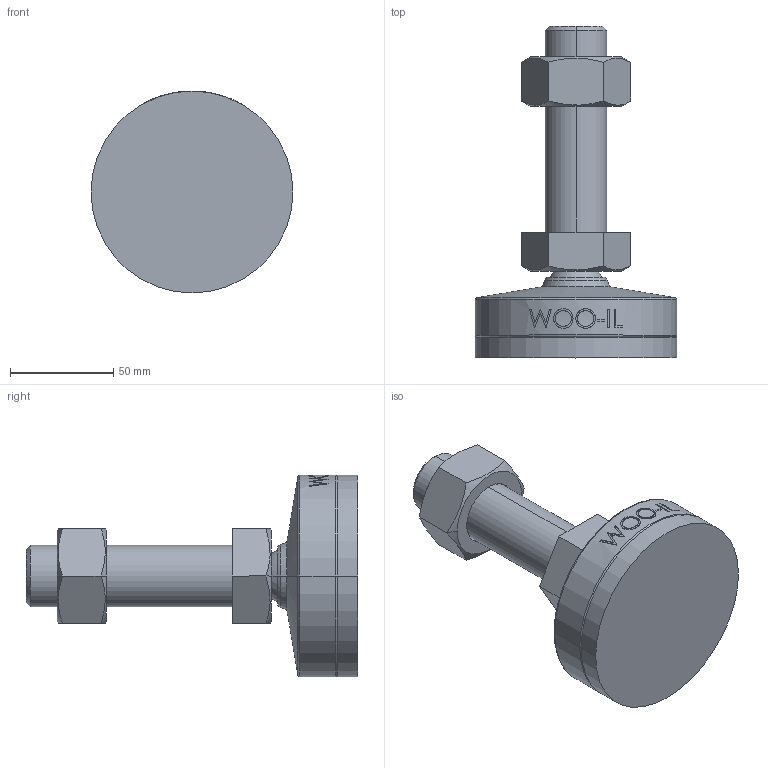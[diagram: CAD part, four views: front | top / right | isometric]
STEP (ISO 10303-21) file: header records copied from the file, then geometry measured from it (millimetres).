
FILE_DESCRIPTION (( 'STEP AP214' ), '1' );
FILE_NAME ('MFNR98-M30-100.step', '2021-02-22T09:09:46', ( '' ), ( '' ), 'SwSTEP 2.0', 'SolidWorks 2019', '' );
FILE_SCHEMA (( 'AUTOMOTIVE_DESIGN' ));
Length unit declared in the file: millimetre
Products named in the file (2): MFNR98-M30-100
Bounding box: 98 x 161 x 98 mm (x, y, z)
Volume: 374905.1 mm3; surface area: 48046.2 mm2
Topology: 2 solids, 2 shells, 103 faces, 239 edges, 152 vertices
Faces by surface type: plane 47, cone 18, cylinder 16, bspline 16, torus 4, sphere 2
Entity records: 4543 total; most frequent: CARTESIAN_POINT 2264, ORIENTED_EDGE 478, DIRECTION 423, EDGE_CURVE 239, AXIS2_PLACEMENT_3D 161, VERTEX_POINT 152, EDGE_LOOP 117, FACE_OUTER_BOUND 103
